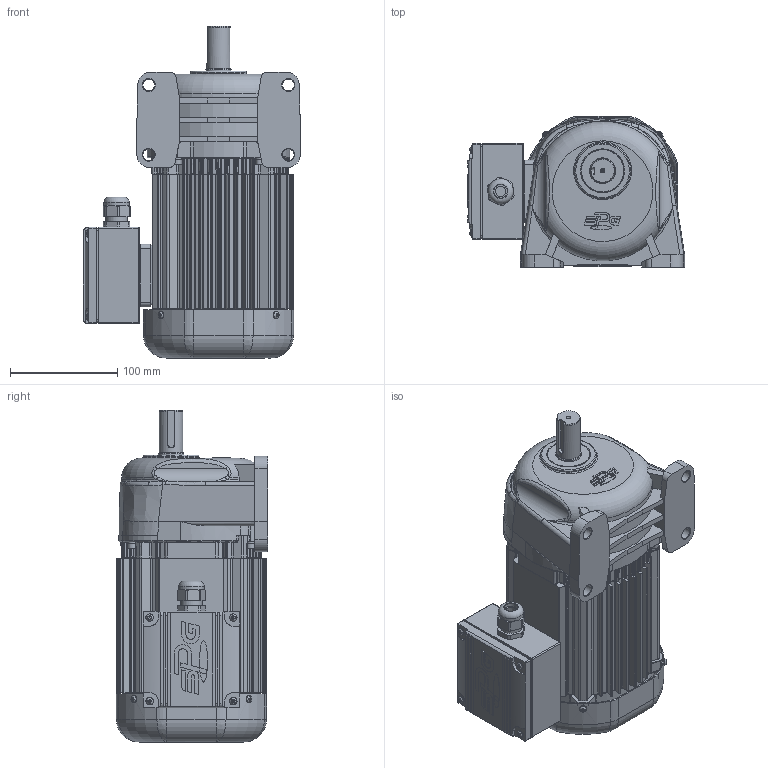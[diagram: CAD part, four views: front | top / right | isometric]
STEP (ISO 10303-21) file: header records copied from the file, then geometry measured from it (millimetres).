
FILE_DESCRIPTION(/* description */ (''),/* implementation_level */ '2;1');
FILE_NAME(/* name */ 'Z:\동력 3D 파일\PAL22-(5~25)-MA(B)040[ ]L_(3D).stp',/* time_stamp */ '2021-03-18T10:36:07+09:00',/* author */ ('jaebok'),/* organization */ (''),/* preprocessor_version */ 'ST-DEVELOPER v16.13',/* originating_system */ 'Autodesk Inventor 2018',/* authorisation */ '');
FILE_SCHEMA (('AUTOMOTIVE_DESIGN { 1 0 10303 214 3 1 1 }'));
Products named in the file (1): 부품1
Bounding box: 202.5 x 141 x 309.5 mm (x, y, z)
Volume: 1427504.4 mm3; surface area: 511208.4 mm2
Topology: 2 solids, 26 shells, 2925 faces, 7463 edges, 4514 vertices
Faces by surface type: plane 903, cylinder 817, bspline 685, torus 288, cone 156, sphere 76
Full cylindrical faces by diameter (mm): 2 x1, 3.242 x5, 3.25 x1, 3.5 x4, 3.6 x4, 4 x21, 4.2 x4, 4.917 x4, 5 x19, 5.386 x4, 5.5 x4, 6 x9, 7 x12, 8 x4, 8.5 x4, 10 x1, 11 x4, 12.5 x1, 14 x1, 15 x1, 15.5 x1, 18 x1, 20 x2, 21 x1, 22 x2, 23 x1, 23.6 x2, 24 x1, 25 x1, 30 x4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
Entity records: 108033 total; most frequent: CARTESIAN_POINT 37637, DIRECTION 14306, ORIENTED_EDGE 13954, EDGE_CURVE 6976, AXIS2_PLACEMENT_3D 6032, VERTEX_POINT 4424, CIRCLE 3401, EDGE_LOOP 3340
